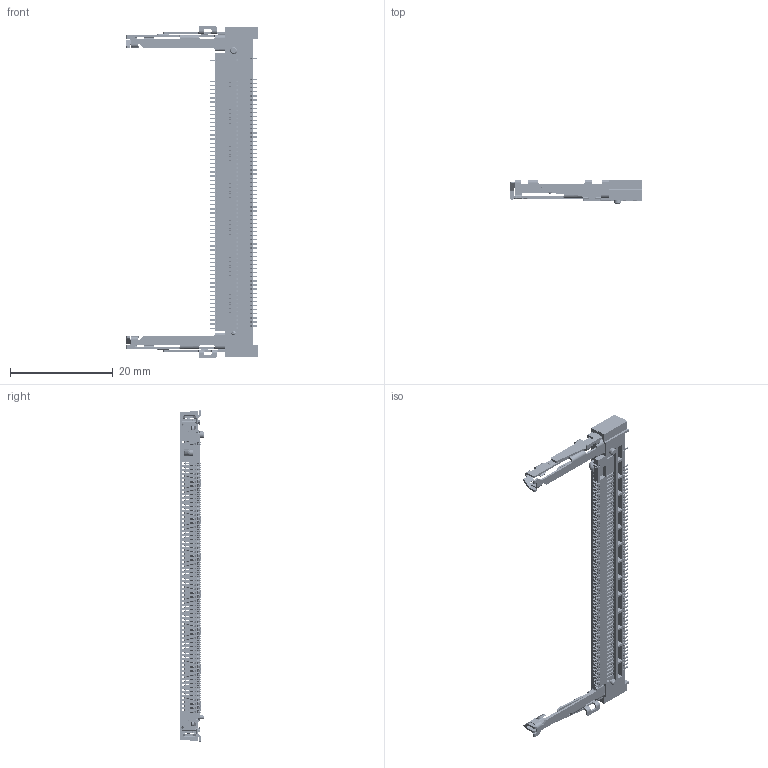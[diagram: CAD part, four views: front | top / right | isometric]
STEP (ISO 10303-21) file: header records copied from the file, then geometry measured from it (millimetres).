
FILE_DESCRIPTION((''),'2;1');
FILE_NAME('114B-40B00-R02_C_1_ASM_ASM','2026-03-26T',('tim.lee'),(''),'CREO PARAMETRIC BY PTC INC, 2015080','CREO PARAMETRIC BY PTC INC, 2015080','');
FILE_SCHEMA(('CONFIG_CONTROL_DESIGN'));
Products named in the file (129): MSBR-127_1; MSBR-126_1; MSBR-125_1; MSBR-124_1; MSBR-123_1; MSBR-122_1; MSBR-121_1; MSBR-120_1; MSBR-119_1; MSBR-118_1; MSBR-117_1; MSBR-116_1; MSBR-115_1; MSBR-114_1; MSBR-113_1; MSBR-112_1; MSBR-111_1; MSBR-110_1; MSBR-109_1; MSBR-108_1; MSBR-107_1; MSBR-106_1; MSBR-105_1; MSBR-104_1; MSBR-103_1; MSBR-102_1; MSBR-101_1; MSBR-100_1; MSBR-99_1; MSBR-98_1; MSBR-97_1; MSBR-96_1; MSBR-95_1; MSBR-94_1; MSBR-93_1; MSBR-92_1; MSBR-91_1; MSBR-90_1; MSBR-89_1; MSBR-88_1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
Assembly tree (128 placements, depth 3):
  114B-40B00-R02_C_1_ASM_ASM
    114B-40B00-R02_C_1_ASM_1_ASM
      MSBR-127_1
      MSBR-126_1
      MSBR-125_1
      MSBR-124_1
      MSBR-123_1
      MSBR-122_1
      MSBR-121_1
      MSBR-120_1
      MSBR-119_1
      MSBR-118_1
      MSBR-117_1
      MSBR-116_1
      MSBR-115_1
      MSBR-114_1
      MSBR-113_1
      MSBR-112_1
      MSBR-111_1
      MSBR-110_1
      MSBR-109_1
      MSBR-108_1
      MSBR-107_1
      MSBR-106_1
      MSBR-105_1
      MSBR-104_1
      MSBR-103_1
      MSBR-102_1
      MSBR-101_1
      MSBR-100_1
      MSBR-99_1
      MSBR-98_1
      MSBR-97_1
      MSBR-96_1
      MSBR-95_1
      MSBR-94_1
      MSBR-93_1
      MSBR-92_1
      MSBR-91_1
      MSBR-90_1
      MSBR-89_1
      MSBR-88_1
      MSBR-87_1
      MSBR-86_1
      MSBR-85_1
      MSBR-84_1
      MSBR-83_1
      MSBR-82_1
      MSBR-81_1
      MSBR-80_1
      MSBR-79_1
      MSBR-78_1
      MSBR-77_1
      MSBR-76_1
      MSBR-75_1
      MSBR-74_1
      MSBR-73_1
      MSBR-72_1
      MSBR-71_1
      MSBR-70_1
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Bounding box: 25.6 x 4.7 x 64.61 mm (x, y, z)
Volume: 1019.6 mm3; surface area: 6058.6 mm2
Topology: 127 solids, 127 shells, 11376 faces, 33695 edges, 22292 vertices
Faces by surface type: plane 8944, cylinder 2419, cone 12, bspline 1
Entity records: 382705 total; most frequent: CARTESIAN_POINT 70629, ORIENTED_EDGE 67390, DIRECTION 62249, EDGE_CURVE 33695, VECTOR 27497, LINE 27497, VERTEX_POINT 22292, AXIS2_PLACEMENT_3D 17376
